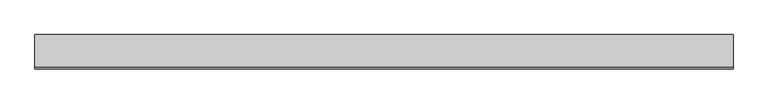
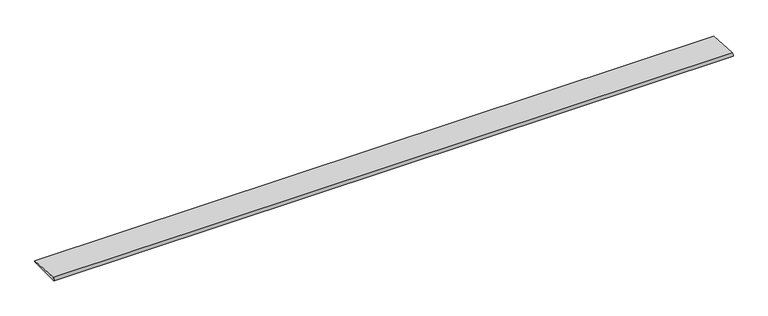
"""IFC4 building model written with IfcOpenShell, lengths in millimetres: proxy geometry, Muestra 6.32m S62 : Muestra 6.32m S62."""

from ifc_helpers import new_model, si_unit, point, frame, frame_2d, origin, place, context, project, spatial, polyline, circle_curve, trimmed, segment, composite_curve, outline, extrude, source, transform, mapped, element, save


def generic_models_d1a6618e(model_context):
    return source(origin(), model_context, "Body", "SweptSolid", [
        extrude(outline(composite_curve([segment(trimmed(circle_curve(frame_2d((2879.2368091, 9.2919904)), 16.7800504), [point((2865.2643717, 0.0))], [point((2880.0028557, 26.0545458))], False, "CARTESIAN"), True, "CONTINUOUS"), segment(polyline([(2880.0028557, 26.0545458), (3171.903343, 12.0), (3171.903343, 0.0), (2865.2643717, 0.0)]), True, "CONTINUOUS")], self_intersect=False)), frame((100323.4734252, 0.0, 0.0), z_axis=(1.0, 0.0, 0.0), x_axis=(0.0, 1.0, 0.0)), (0.0, 0.0, 1.0), 6320.0),
    ])


if __name__ == "__main__":
    model = new_model("IFC4")
    model_context = context("Model", 3, world=origin())
    ifc_project = project(units=[si_unit("LENGTHUNIT", "METRE", prefix="MILLI")], contexts=[model_context])
    site = spatial("IfcSite", under=ifc_project)
    building = spatial("IfcBuilding", under=site)
    placement = place(None, origin())
    generic_models_shape = generic_models_d1a6618e(model_context)
    element("IfcBuildingElementProxy", 1, Name="Muestra 6.32m S62 : Muestra 6.32m S62", ObjectType="Muestra 6.32m S62 : Muestra 6.32m S62", at=placement, inside=building, context=model_context, shape_type="MappedRepresentation", body=[
        mapped(generic_models_shape, transform((0.0, 0.0, 0.0), x_axis=(1.0, 0.0, 0.0), y_axis=(0.0, 1.0, 0.0), z_axis=(0.0, 0.0, 1.0))),
    ])
    save(model, "model.ifc")
